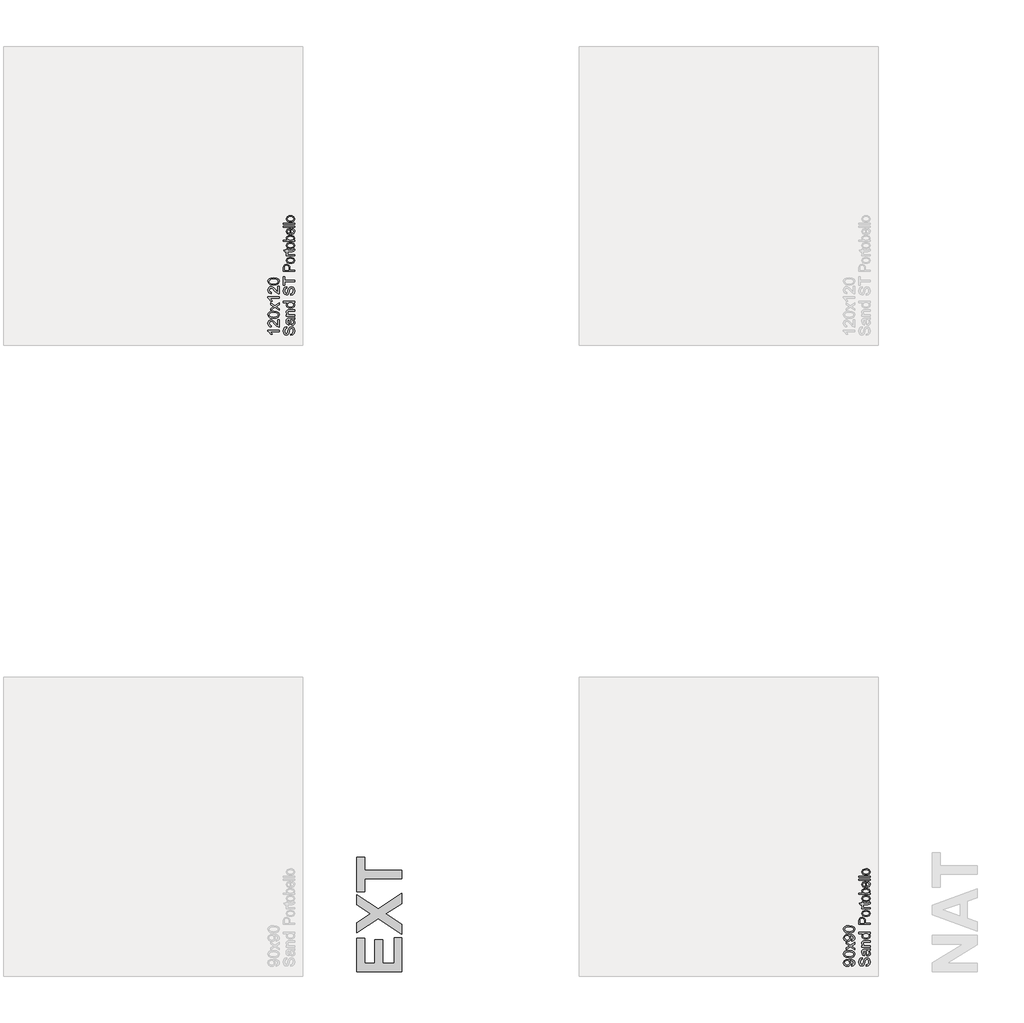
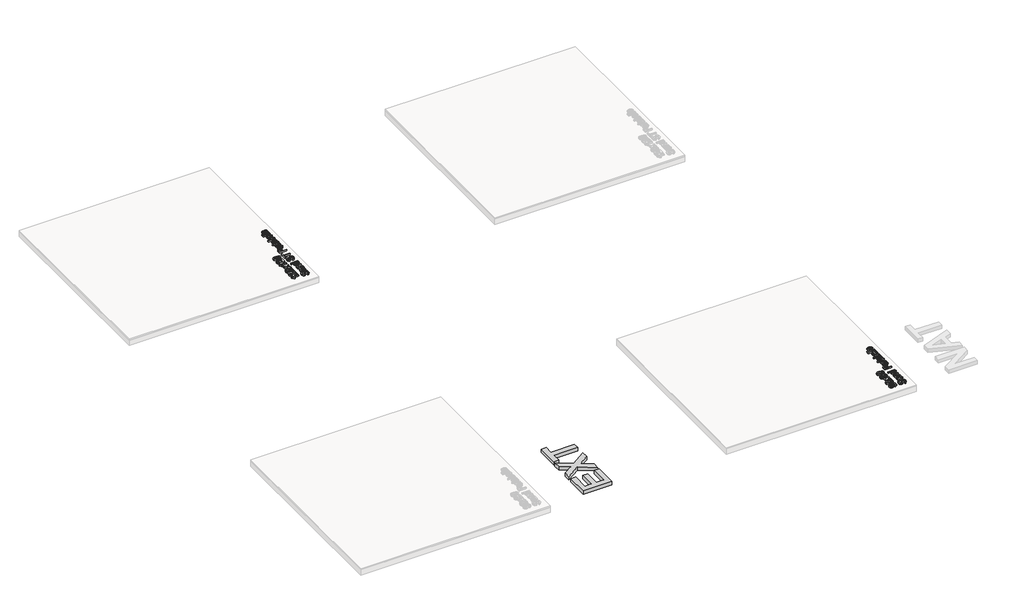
# One storey, part 3 of 19: 7 proxies.
"""IFC4 building model written with IfcOpenShell, lengths in millimetres."""

import ifcopenshell
import ifcopenshell.guid

model = None  # the IFC model being written
_history = None  # IfcOwnerHistory: only IFC2X3 demands one
_inside = {}  # id of a spatial element -> (the spatial element, [elements in it])
_under = {}  # id of a project, library or spatial element -> (it, [spatial elements below it])
_declared = {}  # id of a project -> (the project, [libraries it declares])
_typed = {}  # id of a type object -> (the type object, [elements of that type])
_made_of = {}  # id of a material, layer set ... -> (it, [elements and type objects made of it])


def new_model(schema):
    """Start an empty IFC model of exactly this schema.

    Asked for "IFC4X3", IfcOpenShell would pick the latest addendum, in which some entities
    have other attributes; the version numbers below select the first issue.
    IFC2X3 requires an IfcOwnerHistory on every rooted entity: one is made here for all.
    """
    global model, _history
    if schema == "IFC4X3":
        model = ifcopenshell.file(schema_version=(4, 3, 0, 0))
    else:
        model = ifcopenshell.file(schema=schema)
    _inside.clear()
    _under.clear()
    _declared.clear()
    _typed.clear()
    _made_of.clear()
    _history = None
    if model.schema == "IFC2X3":
        org = make("IfcOrganization", Name="unknown")
        user = make(
            "IfcPersonAndOrganization",
            ThePerson=make("IfcPerson", FamilyName="unknown"),
            TheOrganization=org,
        )
        app = make(
            "IfcApplication",
            ApplicationDeveloper=org,
            Version="unknown",
            ApplicationFullName="unknown",
            ApplicationIdentifier="unknown",
        )
        _history = make(
            "IfcOwnerHistory",
            OwningUser=user,
            OwningApplication=app,
            ChangeAction="ADDED",
            CreationDate=0,
        )
    return model


def make(cls, **values):
    """One entity of the class cls with the attributes given. An attribute that is None is left unset."""
    return model.create_entity(
        cls, **{name: value for name, value in values.items() if value is not None}
    )


def rooted(cls, **values):
    """An entity with a GlobalId (a new one), such as an element, a storey or a relation."""
    return make(cls, GlobalId=ifcopenshell.guid.new(), OwnerHistory=_history, **values)


def si_unit(unit_type, name, prefix=None):
    """IfcSIUnit, for example si_unit("LENGTHUNIT", "METRE", prefix="MILLI")."""
    return make("IfcSIUnit", UnitType=unit_type, Prefix=prefix, Name=name)


def assignment(units):
    """IfcUnitAssignment: the units of a project."""
    return None if units is None else make("IfcUnitAssignment", Units=units)


def point(xyz):
    """IfcCartesianPoint."""
    return None if xyz is None else make("IfcCartesianPoint", Coordinates=xyz)


def direction(xyz):
    """IfcDirection."""
    return None if xyz is None else make("IfcDirection", DirectionRatios=xyz)


def frame(location, z_axis=None, x_axis=None):
    """IfcAxis2Placement3D, a coordinate frame: its origin and axes. An axis left out is left unset."""
    return make(
        "IfcAxis2Placement3D",
        Location=point(location),
        Axis=direction(z_axis),
        RefDirection=direction(x_axis),
    )


def origin():
    """The frame at (0, 0, 0) with its axes left unset."""
    return frame((0.0, 0.0, 0.0))


def origin_with_axes():
    """The frame at (0, 0, 0) with the z axis (0, 0, 1) and the x axis (1, 0, 0) written out."""
    return frame((0.0, 0.0, 0.0), z_axis=(0.0, 0.0, 1.0), x_axis=(1.0, 0.0, 0.0))


def place(relative_to, where):
    """IfcLocalPlacement: puts the frame where relative to a parent placement (None: the world)."""
    return make(
        "IfcLocalPlacement", PlacementRelTo=relative_to, RelativePlacement=where
    )


def context(
    kind, dimensions, precision=None, world=None, true_north=None, identifier=None
):
    """IfcGeometricRepresentationContext, for example the 3D "Model" context."""
    return make(
        "IfcGeometricRepresentationContext",
        ContextIdentifier=identifier,
        ContextType=kind,
        CoordinateSpaceDimension=dimensions,
        Precision=precision,
        WorldCoordinateSystem=world,
        TrueNorth=true_north,
    )


def project(units=None, contexts=None):
    """IfcProject with its units and contexts."""
    return rooted(
        "IfcProject",
        Name="project",
        RepresentationContexts=contexts,
        UnitsInContext=assignment(units),
    )


def spatial(cls, under=None, at=None, **own):
    """A site, building, storey or space (cls), placed at a placement, below another one or the project."""
    s = rooted(cls, ObjectPlacement=at, **own)
    if under is not None:
        _under.setdefault(under.id(), (under, []))[1].append(s)
    return s


def polyline(points):
    """IfcPolyline through the points."""
    return make("IfcPolyline", Points=[point(p) for p in points])


def outline(outer, holes=None, kind="AREA"):
    """IfcArbitraryClosedProfileDef: a profile drawn as a closed curve; with holes, ...WithVoids."""
    if holes is None:
        return make("IfcArbitraryClosedProfileDef", ProfileType=kind, OuterCurve=outer)
    return make(
        "IfcArbitraryProfileDefWithVoids",
        ProfileType=kind,
        OuterCurve=outer,
        InnerCurves=holes,
    )


def extrude(swept, where, along, depth):
    """IfcExtrudedAreaSolid: the profile swept, set in the frame where, extruded along a direction by depth."""
    return make(
        "IfcExtrudedAreaSolid",
        SweptArea=swept,
        Position=where,
        ExtrudedDirection=direction(along),
        Depth=depth,
    )


def shape(context_of_items, identifier, shape_type, items):
    """IfcShapeRepresentation: the items that make up one representation, for example the "Body"."""
    return make(
        "IfcShapeRepresentation",
        ContextOfItems=context_of_items,
        RepresentationIdentifier=identifier,
        RepresentationType=shape_type,
        Items=items,
    )


def made_of(thing, what):
    """Note that an element or type object is made of a material, layer set ...; save() writes the relation."""
    if what is not None:
        _made_of.setdefault(what.id(), (what, []))[1].append(thing)
    return thing


def element(
    cls,
    number,
    at=None,
    inside=None,
    cuts=None,
    type_object=None,
    material=None,
    context=None,
    identifier="Body",
    shape_type=None,
    held_by="IfcProductDefinitionShape",
    body=None,
    shapes=None,
    **own,
):
    """One element of the class cls, such as IfcWall. Its Tag is "e" and its number.

    at: its placement. inside: the storey or other place that contains it. cuts: it is an
    opening in that element (IfcRelVoidsElement). A single representation is given by context,
    identifier, shape_type and body (its items); several are given by shapes. held_by: the class
    of the entity that holds the representations. save() writes the other relations.
    """
    e = rooted(cls, Tag="e%d" % number, ObjectPlacement=at, **own)
    if body is not None:
        shapes = [shape(context, identifier, shape_type, body)]
    if shapes is not None:
        e.Representation = make(held_by, Representations=shapes)
    if inside is not None:
        _inside.setdefault(inside.id(), (inside, []))[1].append(e)
    if cuts is not None:
        rooted(
            "IfcRelVoidsElement", RelatingBuildingElement=cuts, RelatedOpeningElement=e
        )
    if type_object is not None:
        _typed.setdefault(type_object.id(), (type_object, []))[1].append(e)
    return made_of(e, material)


def aggregate(whole, parts):
    """IfcRelAggregates: a whole, such as a stair, and the parts it consists of."""
    return rooted("IfcRelAggregates", RelatingObject=whole, RelatedObjects=parts)


def save(model, path):
    """Write the relations noted so far, then the file.

    IfcRelAggregates (storeys below a building ...), IfcRelContainedInSpatialStructure (elements
    in a storey), IfcRelDefinesByType, IfcRelAssociatesMaterial and IfcRelDeclares: one each for
    every whole, place, type object, material and project.
    """
    for whole, parts in _under.values():
        aggregate(whole, parts)
    for where, things in _inside.values():
        rooted(
            "IfcRelContainedInSpatialStructure",
            RelatedElements=things,
            RelatingStructure=where,
        )
    for kind, things in _typed.values():
        rooted("IfcRelDefinesByType", RelatedObjects=things, RelatingType=kind)
    for what, things in _made_of.values():
        rooted("IfcRelAssociatesMaterial", RelatedObjects=things, RelatingMaterial=what)
    for by, libraries in _declared.values():
        rooted("IfcRelDeclares", RelatingContext=by, RelatedDefinitions=libraries)
    model.write(path)


model = new_model("IFC4")

# Units and contexts
model_context = context("Model", 3, world=origin())
ifc_project = project(units=[si_unit("LENGTHUNIT", "METRE", prefix="MILLI")], contexts=[model_context])

# Site, building, storey
site = spatial("IfcSite", under=ifc_project)
building = spatial("IfcBuilding", under=site)
storey = spatial("IfcBuildingStorey", under=building, Name="PORTOBELLO - SHOWROOM", Elevation=0.0)

# Proxies
placement = place(None, origin())
element("IfcBuildingElementProxy", 1, Name="10mm Arial", ObjectType="10mm Arial", at=placement, inside=storey, context=model_context, shape_type="SweptSolid", body=[
    extrude(outline(polyline([(-6403.2913328, -7006.5341901), (-6403.2913328, -6993.9771514), (-6390.7220313, -6989.9304494), (-6382.7757802, -6980.0466865), (-6379.7468851, -6964.9880502), (-6382.0400162, -6951.8669257), (-6388.3430611, -6943.393377), (-6396.7675588, -6940.6097366), (-6404.6034453, -6942.6944012), (-6410.3056162, -6951.2292635), (-6415.1003449, -6969.5129987), (-6421.2930251, -6989.1946854), (-6430.6372278, -6999.875526), (-6443.1206902, -7003.3949304), (-6457.3331979, -6999.0416602), (-6467.3641136, -6986.3252059), (-6470.7854162, -6967.7103769), (-6467.2046981, -6947.8447492), (-6456.683273, -6934.6009973), (-6440.9624491, -6929.6223277), (-6440.9624491, -6942.1793664), (-6448.4549791, -6944.4847603), (-6453.8628444, -6949.2917517), (-6458.2283774, -6967.2198676), (-6453.9118953, -6985.1970344), (-6443.4885721, -6990.8378917), (-6434.7820316, -6986.8402407), (-6427.7677482, -6966.3369508), (-6421.4647034, -6944.1168783), (-6411.2866348, -6931.9645097), (-6397.0863898, -6928.0526978), (-6382.0645417, -6932.5531209), (-6371.1016582, -6945.5025671), (-6367.1898463, -6964.4975408), (-6371.4082266, -6986.9260798), (-6384.1124181, -7001.1140621), (-6403.2913328, -7006.5341901)])), frame((0.0, 0.0, 18.0), z_axis=(0.0, 0.0, 1.0), x_axis=(1.0, 0.0, 0.0)), (0.0, 0.0, 1.0), 20.0),
    extrude(outline(polyline([(-6378.1772553, -6863.6978741), (-6369.6669185, -6875.8747682), (-6367.1898463, -6889.3269865), (-6368.6797684, -6899.8208204), (-6373.1495347, -6907.5616707), (-6379.9369575, -6912.3349396), (-6388.3798493, -6913.9260292), (-6398.3126631, -6911.5225335), (-6405.5231502, -6905.2072259), (-6409.6434286, -6896.4148462), (-6411.5318895, -6885.5500647), (-6415.8483716, -6863.7714505), (-6418.6442747, -6863.6978741), (-6427.914901, -6867.1559649), (-6431.54467, -6881.0373789), (-6429.1289116, -6893.7415704), (-6420.5572611, -6899.7993606), (-6422.126891, -6912.3563994), (-6434.3896241, -6906.9240086), (-6441.5755858, -6895.9856506), (-6444.1017088, -6879.4186981), (-6441.8698914, -6864.2006462), (-6436.2658223, -6855.6044703), (-6427.7432228, -6851.753972), (-6416.7558138, -6851.1408354), (-6401.1330918, -6851.1408354), (-6379.3176895, -6850.5031733), (-6368.7594762, -6848.0015757), (-6368.7594762, -6860.5586145), (-6378.1772553, -6863.6978741)]), holes=[polyline([(-6403.2913328, -6863.6978741), (-6399.4408346, -6883.9559093), (-6397.4052209, -6894.7593773), (-6394.0942829, -6899.6522078), (-6389.2627661, -6901.3689905), (-6382.4692119, -6897.6288568), (-6379.7468851, -6886.6537106), (-6382.7512547, -6873.9495191), (-6390.0230555, -6865.7580133), (-6399.7351402, -6863.7714505), (-6403.2913328, -6863.6978741)])]), frame((0.0, 0.0, 18.0), z_axis=(0.0, 0.0, 1.0), x_axis=(1.0, 0.0, 0.0)), (0.0, 0.0, 1.0), 20.0),
    extrude(outline(polyline([(-6368.7594762, -6833.8749071), (-6442.532079, -6833.8749071), (-6442.532079, -6821.3178683), (-6432.2313831, -6821.3178683), (-6441.1341274, -6811.7161482), (-6444.1017088, -6798.6072865), (-6441.7104758, -6786.7492235), (-6435.4319565, -6778.6558196), (-6426.1981184, -6774.8911605), (-6414.0580125, -6774.2289729), (-6368.7594762, -6774.2289729), (-6368.7594762, -6786.7860117), (-6412.3657554, -6786.7860117), (-6423.4757916, -6788.2330142), (-6429.3496408, -6793.3465739), (-6431.54467, -6801.9672754), (-6426.6150513, -6815.5911719), (-6419.4720092, -6819.8861942), (-6407.9021205, -6821.3178683), (-6368.7594762, -6821.3178683), (-6368.7594762, -6833.8749071)])), frame((0.0, 0.0, 18.0), z_axis=(0.0, 0.0, 1.0), x_axis=(1.0, 0.0, 0.0)), (0.0, 0.0, 1.0), 20.0),
    extrude(outline(polyline([(-6368.7594762, -6711.4437791), (-6380.6052764, -6711.4437791), (-6370.5437039, -6719.7517808), (-6367.1898463, -6731.2358304), (-6372.0458887, -6746.7849761), (-6385.5962088, -6757.772385), (-6405.5722012, -6761.6719341), (-6425.5604563, -6758.0789533), (-6439.3192429, -6747.3122736), (-6444.1017088, -6731.2848813), (-6440.6804063, -6719.7088612), (-6431.7899247, -6711.4437791), (-6469.2157863, -6711.4437791), (-6469.2157863, -6698.8867403), (-6368.7594762, -6698.8867403), (-6368.7594762, -6711.4437791)]), holes=[polyline([(-6405.6212521, -6749.1148954), (-6394.2628955, -6747.6985497), (-6386.18482, -6743.4495127), (-6381.3563688, -6737.2752265), (-6379.7468851, -6730.0831335), (-6381.2827924, -6722.8941062), (-6385.8905144, -6716.8761699), (-6393.6558902, -6712.8018768), (-6404.6647589, -6711.4437791), (-6416.7006315, -6712.8264022), (-6425.0454215, -6716.9742717), (-6429.9198579, -6723.1454922), (-6431.54467, -6730.5981683), (-6429.9842372, -6737.8638377), (-6425.3029389, -6743.8173947), (-6417.2616516, -6747.7905202), (-6405.6212521, -6749.1148954)])]), frame((0.0, 0.0, 18.0), z_axis=(0.0, 0.0, 1.0), x_axis=(1.0, 0.0, 0.0)), (0.0, 0.0, 1.0), 20.0),
])
element("IfcBuildingElementProxy", 2, Name="10mm Arial", ObjectType="10mm Arial", at=placement, inside=storey, context=model_context, shape_type="SweptSolid", body=[
    extrude(outline(polyline([(-6533.8735537, -7004.9645603), (-6535.4431836, -6992.4075215), (-6523.4624933, -6986.7666643), (-6519.7468851, -6976.0735609), (-6522.1381181, -6965.9077551), (-6528.5270021, -6959.0160991), (-6539.4408346, -6954.9080835), (-6554.0089616, -6953.093199), (-6556.4615082, -6953.1667754), (-6546.9456273, -6963.2099538), (-6543.2913328, -6976.9810032), (-6545.5231502, -6988.4313303), (-6552.2186026, -6997.9625397), (-6562.562218, -7004.3912775), (-6575.7385248, -7006.5341901), (-6589.3501586, -7004.2870443), (-6600.0187365, -6997.5456067), (-6606.9165239, -6987.4196548), (-6609.2157863, -6975.0189659), (-6603.9673365, -6957.1276382), (-6589.0068021, -6944.8158541), (-6560.9006176, -6940.6097366), (-6530.4032002, -6944.8035913), (-6520.4121384, -6950.0183186), (-6513.1250092, -6957.274791), (-6508.6736371, -6966.2603087), (-6507.1898463, -6976.6621721), (-6508.9403515, -6987.398195), (-6514.191867, -6995.9637141), (-6522.613299, -7001.9540593), (-6533.8735537, -7004.9645603)]), holes=[polyline([(-6576.0328304, -6953.1667754), (-6584.5431672, -6954.5218074), (-6591.0914667, -6958.5869034), (-6595.2669274, -6964.8960797), (-6596.6587476, -6972.9833522), (-6595.1596284, -6981.3710617), (-6590.6622711, -6988.0910394), (-6583.7798121, -6992.5056234), (-6575.1253881, -6993.9771514), (-6567.3661437, -6992.5853312), (-6561.207186, -6988.4098705), (-6557.1880752, -6981.8554396), (-6555.8483716, -6973.3267087), (-6561.207186, -6958.8444208), (-6567.5930043, -6954.5861867), (-6576.0328304, -6953.1667754)])]), frame((0.0, 0.0, 18.0), z_axis=(0.0, 0.0, 1.0), x_axis=(1.0, 0.0, 0.0)), (0.0, 0.0, 1.0), 20.0),
    extrude(outline(polyline([(-6558.1782909, -6929.6223277), (-6587.081553, -6925.931245), (-6603.7466074, -6914.9683615), (-6609.2157863, -6896.6601009), (-6605.9784248, -6881.993872), (-6596.6464848, -6871.8648544), (-6581.7840522, -6865.9787425), (-6558.1782909, -6863.6978741), (-6529.3976561, -6867.3521686), (-6512.6958135, -6878.2782639), (-6508.5663381, -6886.5096235), (-6507.1898463, -6896.6601009), (-6509.5810793, -6909.707649), (-6516.7547782, -6919.6159374), (-6533.744795, -6927.1207301), (-6558.1782909, -6929.6223277)]), holes=[polyline([(-6558.2028163, -6917.0652889), (-6538.4506189, -6915.5937609), (-6527.0186859, -6911.179177), (-6521.5648353, -6904.606352), (-6519.7468851, -6896.6601009), (-6521.5709667, -6888.7138498), (-6527.0432114, -6882.1410248), (-6538.4812757, -6877.7264409), (-6558.2028163, -6876.2549129), (-6577.5104897, -6877.67739), (-6589.0313275, -6881.9448211), (-6594.7518926, -6888.5053834), (-6596.6587476, -6896.8072537), (-6594.9787531, -6904.6676657), (-6589.9387698, -6910.9829733), (-6577.7005621, -6915.54471), (-6558.2028163, -6917.0652889)])]), frame((0.0, 0.0, 18.0), z_axis=(0.0, 0.0, 1.0), x_axis=(1.0, 0.0, 0.0)), (0.0, 0.0, 1.0), 20.0),
    extrude(outline(polyline([(-6508.7594762, -6857.4193548), (-6545.8665068, -6830.5884946), (-6582.532079, -6855.8497249), (-6582.532079, -6840.7910886), (-6564.8492177, -6828.6019318), (-6556.5350846, -6822.8874981), (-6563.3531643, -6817.9333539), (-6582.532079, -6804.05194), (-6582.532079, -6788.9442527), (-6545.8419813, -6815.4808073), (-6508.7594762, -6789.9252714), (-6508.7594762, -6805.0084332), (-6531.0776506, -6820.410426), (-6535.1734034, -6823.2063292), (-6508.7594762, -6842.3116675), (-6508.7594762, -6857.4193548)])), frame((0.0, 0.0, 18.0), z_axis=(0.0, 0.0, 1.0), x_axis=(1.0, 0.0, 0.0)), (0.0, 0.0, 1.0), 20.0),
    extrude(outline(polyline([(-6533.8735537, -6780.5074923), (-6535.4431836, -6767.9504535), (-6523.4624933, -6762.3095963), (-6519.7468851, -6751.6164929), (-6522.1381181, -6741.4506871), (-6528.5270021, -6734.5590311), (-6539.4408346, -6730.4510155), (-6554.0089616, -6728.636131), (-6556.4615082, -6728.7097074), (-6546.9456273, -6738.7528858), (-6543.2913328, -6752.5239352), (-6545.5231502, -6763.9742623), (-6552.2186026, -6773.5054717), (-6562.562218, -6779.9342095), (-6575.7385248, -6782.0771221), (-6589.3501586, -6779.8299763), (-6600.0187365, -6773.0885387), (-6606.9165239, -6762.9625868), (-6609.2157863, -6750.5618979), (-6603.9673365, -6732.6705702), (-6589.0068021, -6720.3587861), (-6560.9006176, -6716.1526686), (-6530.4032002, -6720.3465234), (-6520.4121384, -6725.5612506), (-6513.1250092, -6732.817723), (-6508.6736371, -6741.8032407), (-6507.1898463, -6752.2051041), (-6508.9403515, -6762.941127), (-6514.191867, -6771.5066462), (-6522.613299, -6777.4969913), (-6533.8735537, -6780.5074923)]), holes=[polyline([(-6576.0328304, -6728.7097074), (-6584.5431672, -6730.0647394), (-6591.0914667, -6734.1298354), (-6595.2669274, -6740.4390117), (-6596.6587476, -6748.5262842), (-6595.1596284, -6756.9139937), (-6590.6622711, -6763.6339715), (-6583.7798121, -6768.0485554), (-6575.1253881, -6769.5200834), (-6567.3661437, -6768.1282632), (-6561.207186, -6763.9528025), (-6557.1880752, -6757.3983716), (-6555.8483716, -6748.8696407), (-6561.207186, -6734.3873528), (-6567.5930043, -6730.1291187), (-6576.0328304, -6728.7097074)])]), frame((0.0, 0.0, 18.0), z_axis=(0.0, 0.0, 1.0), x_axis=(1.0, 0.0, 0.0)), (0.0, 0.0, 1.0), 20.0),
    extrude(outline(polyline([(-6558.1782909, -6705.1652597), (-6587.081553, -6701.474177), (-6603.7466074, -6690.5112935), (-6609.2157863, -6672.2030329), (-6605.9784248, -6657.536804), (-6596.6464848, -6647.4077864), (-6581.7840522, -6641.5216745), (-6558.1782909, -6639.2408062), (-6529.3976561, -6642.8951006), (-6512.6958135, -6653.8211959), (-6508.5663381, -6662.0525555), (-6507.1898463, -6672.2030329), (-6509.5810793, -6685.250581), (-6516.7547782, -6695.1588694), (-6533.744795, -6702.6636621), (-6558.1782909, -6705.1652597)]), holes=[polyline([(-6558.2028163, -6692.6082209), (-6538.4506189, -6691.1366929), (-6527.0186859, -6686.722109), (-6521.5648353, -6680.149284), (-6519.7468851, -6672.2030329), (-6521.5709667, -6664.2567818), (-6527.0432114, -6657.6839568), (-6538.4812757, -6653.2693729), (-6558.2028163, -6651.7978449), (-6577.5104897, -6653.220322), (-6589.0313275, -6657.4877531), (-6594.7518926, -6664.0483154), (-6596.6587476, -6672.3501857), (-6594.9787531, -6680.2105977), (-6589.9387698, -6686.5259053), (-6577.7005621, -6691.087642), (-6558.2028163, -6692.6082209)])]), frame((0.0, 0.0, 18.0), z_axis=(0.0, 0.0, 1.0), x_axis=(1.0, 0.0, 0.0)), (0.0, 0.0, 1.0), 20.0),
])
element("IfcBuildingElementProxy", 3, Name="10mm Arial", ObjectType="10mm Arial", at=placement, inside=storey, context=model_context, shape_type="SweptSolid", body=[
    extrude(outline(polyline([(-11603.2913328, -1306.5341901), (-11603.2913328, -1293.9771514), (-11590.7220313, -1289.9304494), (-11582.7757802, -1280.0466865), (-11579.7468851, -1264.9880502), (-11582.0400162, -1251.8669257), (-11588.3430611, -1243.393377), (-11596.7675588, -1240.6097366), (-11604.6034453, -1242.6944012), (-11610.3056162, -1251.2292635), (-11615.1003449, -1269.5129987), (-11621.2930251, -1289.1946854), (-11630.6372278, -1299.875526), (-11643.1206902, -1303.3949304), (-11657.3331979, -1299.0416602), (-11667.3641136, -1286.3252059), (-11670.7854162, -1267.7103769), (-11667.2046981, -1247.8447492), (-11656.683273, -1234.6009973), (-11640.9624491, -1229.6223277), (-11640.9624491, -1242.1793664), (-11648.4549791, -1244.4847603), (-11653.8628444, -1249.2917517), (-11658.2283774, -1267.2198676), (-11653.9118953, -1285.1970344), (-11643.4885721, -1290.8378917), (-11634.7820316, -1286.8402407), (-11627.7677482, -1266.3369508), (-11621.4647034, -1244.1168783), (-11611.2866348, -1231.9645097), (-11597.0863898, -1228.0526978), (-11582.0645417, -1232.5531209), (-11571.1016582, -1245.5025671), (-11567.1898463, -1264.4975408), (-11571.4082266, -1286.9260798), (-11584.1124181, -1301.1140621), (-11603.2913328, -1306.5341901)])), frame((0.0, 0.0, 17.0), z_axis=(0.0, 0.0, 1.0), x_axis=(1.0, 0.0, 0.0)), (0.0, 0.0, 1.0), 20.0),
    extrude(outline(polyline([(-11578.1772553, -1163.6978741), (-11569.6669185, -1175.8747682), (-11567.1898463, -1189.3269865), (-11568.6797684, -1199.8208204), (-11573.1495347, -1207.5616707), (-11579.9369575, -1212.3349396), (-11588.3798493, -1213.9260292), (-11598.3126631, -1211.5225335), (-11605.5231502, -1205.2072259), (-11609.6434286, -1196.4148462), (-11611.5318895, -1185.5500647), (-11615.8483716, -1163.7714505), (-11618.6442747, -1163.6978741), (-11627.914901, -1167.1559649), (-11631.54467, -1181.0373789), (-11629.1289116, -1193.7415704), (-11620.5572611, -1199.7993606), (-11622.126891, -1212.3563994), (-11634.3896241, -1206.9240086), (-11641.5755858, -1195.9856506), (-11644.1017088, -1179.4186981), (-11641.8698914, -1164.2006462), (-11636.2658223, -1155.6044703), (-11627.7432228, -1151.753972), (-11616.7558138, -1151.1408354), (-11601.1330918, -1151.1408354), (-11579.3176895, -1150.5031733), (-11568.7594762, -1148.0015757), (-11568.7594762, -1160.5586145), (-11578.1772553, -1163.6978741)]), holes=[polyline([(-11603.2913328, -1163.6978741), (-11599.4408346, -1183.9559093), (-11597.4052209, -1194.7593773), (-11594.0942829, -1199.6522078), (-11589.2627661, -1201.3689905), (-11582.4692119, -1197.6288568), (-11579.7468851, -1186.6537106), (-11582.7512547, -1173.9495191), (-11590.0230555, -1165.7580133), (-11599.7351402, -1163.7714505), (-11603.2913328, -1163.6978741)])]), frame((0.0, 0.0, 17.0), z_axis=(0.0, 0.0, 1.0), x_axis=(1.0, 0.0, 0.0)), (0.0, 0.0, 1.0), 20.0),
    extrude(outline(polyline([(-11568.7594762, -1133.8749071), (-11642.532079, -1133.8749071), (-11642.532079, -1121.3178683), (-11632.2313831, -1121.3178683), (-11641.1341274, -1111.7161482), (-11644.1017088, -1098.6072865), (-11641.7104758, -1086.7492235), (-11635.4319565, -1078.6558196), (-11626.1981184, -1074.8911605), (-11614.0580125, -1074.2289729), (-11568.7594762, -1074.2289729), (-11568.7594762, -1086.7860117), (-11612.3657554, -1086.7860117), (-11623.4757916, -1088.2330142), (-11629.3496408, -1093.3465739), (-11631.54467, -1101.9672754), (-11626.6150513, -1115.5911719), (-11619.4720092, -1119.8861942), (-11607.9021205, -1121.3178683), (-11568.7594762, -1121.3178683), (-11568.7594762, -1133.8749071)])), frame((0.0, 0.0, 17.0), z_axis=(0.0, 0.0, 1.0), x_axis=(1.0, 0.0, 0.0)), (0.0, 0.0, 1.0), 20.0),
    extrude(outline(polyline([(-11568.7594762, -1011.4437791), (-11580.6052764, -1011.4437791), (-11570.5437039, -1019.7517808), (-11567.1898463, -1031.2358304), (-11572.0458887, -1046.7849761), (-11585.5962088, -1057.772385), (-11605.5722012, -1061.6719341), (-11625.5604563, -1058.0789533), (-11639.3192429, -1047.3122736), (-11644.1017088, -1031.2848813), (-11640.6804063, -1019.7088612), (-11631.7899247, -1011.4437791), (-11669.2157863, -1011.4437791), (-11669.2157863, -998.8867403), (-11568.7594762, -998.8867403), (-11568.7594762, -1011.4437791)]), holes=[polyline([(-11605.6212521, -1049.1148954), (-11594.2628955, -1047.6985497), (-11586.18482, -1043.4495127), (-11581.3563688, -1037.2752265), (-11579.7468851, -1030.0831335), (-11581.2827924, -1022.8941062), (-11585.8905144, -1016.8761699), (-11593.6558902, -1012.8018768), (-11604.6647589, -1011.4437791), (-11616.7006315, -1012.8264022), (-11625.0454215, -1016.9742717), (-11629.9198579, -1023.1454922), (-11631.54467, -1030.5981683), (-11629.9842372, -1037.8638377), (-11625.3029389, -1043.8173947), (-11617.2616516, -1047.7905202), (-11605.6212521, -1049.1148954)])]), frame((0.0, 0.0, 17.0), z_axis=(0.0, 0.0, 1.0), x_axis=(1.0, 0.0, 0.0)), (0.0, 0.0, 1.0), 20.0),
    extrude(outline(polyline([(-11603.2913328, -943.9496957), (-11603.2913328, -931.3926569), (-11590.7220313, -927.345955), (-11582.7757802, -917.462192), (-11579.7468851, -902.4035557), (-11582.0400162, -889.2824312), (-11588.3430611, -880.8088826), (-11596.7675588, -878.0252422), (-11604.6034453, -880.1099068), (-11610.3056162, -888.6447691), (-11615.1003449, -906.9285042), (-11621.2930251, -926.610191), (-11630.6372278, -937.2910316), (-11643.1206902, -940.810436), (-11657.3331979, -936.4571657), (-11667.3641136, -923.7407114), (-11670.7854162, -905.1258825), (-11667.2046981, -885.2602547), (-11656.683273, -872.0165029), (-11640.9624491, -867.0378332), (-11640.9624491, -879.594872), (-11648.4549791, -881.9002658), (-11653.8628444, -886.7072572), (-11658.2283774, -904.6353731), (-11653.9118953, -922.61254), (-11643.4885721, -928.2533972), (-11634.7820316, -924.2557462), (-11627.7677482, -903.7524564), (-11621.4647034, -881.5323838), (-11611.2866348, -869.3800153), (-11597.0863898, -865.4682034), (-11582.0645417, -869.9686265), (-11571.1016582, -882.9180727), (-11567.1898463, -901.9130464), (-11571.4082266, -924.3415853), (-11584.1124181, -938.5295676), (-11603.2913328, -943.9496957)])), frame((0.0, 0.0, 17.0), z_axis=(0.0, 0.0, 1.0), x_axis=(1.0, 0.0, 0.0)), (0.0, 0.0, 1.0), 20.0),
    extrude(outline(polyline([(-11568.7594762, -821.5185677), (-11656.6587476, -821.5185677), (-11656.6587476, -854.4807945), (-11669.2157863, -854.4807945), (-11669.2157863, -775.9993022), (-11656.6587476, -775.9993022), (-11656.6587476, -808.9615289), (-11568.7594762, -808.9615289), (-11568.7594762, -821.5185677)])), frame((0.0, 0.0, 17.0), z_axis=(0.0, 0.0, 1.0), x_axis=(1.0, 0.0, 0.0)), (0.0, 0.0, 1.0), 20.0),
])
element("IfcBuildingElementProxy", 4, Name="10mm Arial", ObjectType="10mm Arial", at=placement, inside=storey, context=model_context, shape_type="SweptSolid", body=[
    extrude(outline(polyline([(-11708.7594762, -1259.4452948), (-11708.7594762, -1272.0023335), (-11787.0447648, -1272.0023335), (-11778.5712161, -1283.8971847), (-11772.2313831, -1297.1164111), (-11784.1017088, -1297.1164111), (-11795.8494072, -1278.7100486), (-11809.2157863, -1267.5386987), (-11809.2157863, -1259.4452948), (-11708.7594762, -1259.4452948)])), frame((0.0, 0.0, 17.0), z_axis=(0.0, 0.0, 1.0), x_axis=(1.0, 0.0, 0.0)), (0.0, 0.0, 1.0), 20.0),
    extrude(outline(polyline([(-11721.316515, -1165.267504), (-11708.7594762, -1165.267504), (-11708.7594762, -1231.1919575), (-11717.4169658, -1229.8430569), (-11730.7465568, -1222.2033741), (-11745.3024211, -1206.4702875), (-11766.2226438, -1184.8020379), (-11780.4474143, -1179.3941726), (-11791.9621208, -1184.5077323), (-11796.6587476, -1197.8618488), (-11792.0724854, -1211.7800509), (-11779.3928193, -1217.0652889), (-11780.9624491, -1229.6223277), (-11793.1086863, -1226.5781042), (-11801.9807738, -1219.9960821), (-11807.4070332, -1210.2196181), (-11809.2157863, -1197.5920686), (-11807.2046981, -1184.8725487), (-11801.1714334, -1175.1144787), (-11792.1583245, -1168.9064701), (-11781.2077038, -1166.8371338), (-11769.3005899, -1169.0689513), (-11756.9888058, -1176.4879048), (-11739.7841911, -1194.4773344), (-11727.7053989, -1208.9228341), (-11721.316515, -1214.5882168), (-11721.316515, -1165.267504)])), frame((0.0, 0.0, 17.0), z_axis=(0.0, 0.0, 1.0), x_axis=(1.0, 0.0, 0.0)), (0.0, 0.0, 1.0), 20.0),
    extrude(outline(polyline([(-11758.1782909, -1152.7104652), (-11787.081553, -1149.0193825), (-11803.7466074, -1138.0564991), (-11809.2157863, -1119.7482385), (-11805.9784248, -1105.0820096), (-11796.6464848, -1094.952992), (-11781.7840522, -1089.0668801), (-11758.1782909, -1086.7860117), (-11729.3976561, -1090.4403062), (-11712.6958135, -1101.3664014), (-11708.5663381, -1109.5977611), (-11707.1898463, -1119.7482385), (-11709.5810793, -1132.7957866), (-11716.7547782, -1142.704075), (-11733.744795, -1150.2088677), (-11758.1782909, -1152.7104652)]), holes=[polyline([(-11758.2028163, -1140.1534265), (-11738.4506189, -1138.6818985), (-11727.0186859, -1134.2673145), (-11721.5648353, -1127.6944896), (-11719.7468851, -1119.7482385), (-11721.5709667, -1111.8019874), (-11727.0432114, -1105.2291624), (-11738.4812757, -1100.8145784), (-11758.2028163, -1099.3430505), (-11777.5104897, -1100.7655275), (-11789.0313275, -1105.0329586), (-11794.7518926, -1111.5935209), (-11796.6587476, -1119.8953913), (-11794.9787531, -1127.7558032), (-11789.9387698, -1134.0711108), (-11777.7005621, -1138.6328475), (-11758.2028163, -1140.1534265)])]), frame((0.0, 0.0, 17.0), z_axis=(0.0, 0.0, 1.0), x_axis=(1.0, 0.0, 0.0)), (0.0, 0.0, 1.0), 20.0),
    extrude(outline(polyline([(-11708.7594762, -1080.5074923), (-11745.8665068, -1053.6766321), (-11782.532079, -1078.9378625), (-11782.532079, -1063.8792261), (-11764.8492177, -1051.6900693), (-11756.5350846, -1045.9756357), (-11763.3531643, -1041.0214915), (-11782.532079, -1027.1400775), (-11782.532079, -1012.0323903), (-11745.8419813, -1038.5689449), (-11708.7594762, -1013.0134089), (-11708.7594762, -1028.0965707), (-11731.0776506, -1043.4985636), (-11735.1734034, -1046.2944668), (-11708.7594762, -1065.399805), (-11708.7594762, -1080.5074923)])), frame((0.0, 0.0, 17.0), z_axis=(0.0, 0.0, 1.0), x_axis=(1.0, 0.0, 0.0)), (0.0, 0.0, 1.0), 20.0),
    extrude(outline(polyline([(-11708.7594762, -958.0763643), (-11708.7594762, -970.6334031), (-11787.0447648, -970.6334031), (-11778.5712161, -982.5282543), (-11772.2313831, -995.7474806), (-11784.1017088, -995.7474806), (-11795.8494072, -977.3411181), (-11809.2157863, -966.1697682), (-11809.2157863, -958.0763643), (-11708.7594762, -958.0763643)])), frame((0.0, 0.0, 17.0), z_axis=(0.0, 0.0, 1.0), x_axis=(1.0, 0.0, 0.0)), (0.0, 0.0, 1.0), 20.0),
    extrude(outline(polyline([(-11721.316515, -863.8985735), (-11708.7594762, -863.8985735), (-11708.7594762, -929.8230271), (-11717.4169658, -928.4741264), (-11730.7465568, -920.8344437), (-11745.3024211, -905.101357), (-11766.2226438, -883.4331075), (-11780.4474143, -878.0252422), (-11791.9621208, -883.1388019), (-11796.6587476, -896.4929183), (-11792.0724854, -910.4111205), (-11779.3928193, -915.6963585), (-11780.9624491, -928.2533972), (-11793.1086863, -925.2091737), (-11801.9807738, -918.6271517), (-11807.4070332, -908.8506877), (-11809.2157863, -896.2231382), (-11807.2046981, -883.5036182), (-11801.1714334, -873.7455483), (-11792.1583245, -867.5375396), (-11781.2077038, -865.4682034), (-11769.3005899, -867.7000208), (-11756.9888058, -875.1189744), (-11739.7841911, -893.108404), (-11727.7053989, -907.5539036), (-11721.316515, -913.2192864), (-11721.316515, -863.8985735)])), frame((0.0, 0.0, 17.0), z_axis=(0.0, 0.0, 1.0), x_axis=(1.0, 0.0, 0.0)), (0.0, 0.0, 1.0), 20.0),
    extrude(outline(polyline([(-11758.1782909, -851.3415348), (-11787.081553, -847.6504521), (-11803.7466074, -836.6875686), (-11809.2157863, -818.379308), (-11805.9784248, -803.7130791), (-11796.6464848, -793.5840615), (-11781.7840522, -787.6979496), (-11758.1782909, -785.4170812), (-11729.3976561, -789.0713757), (-11712.6958135, -799.997471), (-11708.5663381, -808.2288306), (-11707.1898463, -818.379308), (-11709.5810793, -831.4268561), (-11716.7547782, -841.3351445), (-11733.744795, -848.8399372), (-11758.1782909, -851.3415348)]), holes=[polyline([(-11758.2028163, -838.784496), (-11738.4506189, -837.312968), (-11727.0186859, -832.8983841), (-11721.5648353, -826.3255591), (-11719.7468851, -818.379308), (-11721.5709667, -810.4330569), (-11727.0432114, -803.8602319), (-11738.4812757, -799.445648), (-11758.2028163, -797.97412), (-11777.5104897, -799.3965971), (-11789.0313275, -803.6640282), (-11794.7518926, -810.2245904), (-11796.6587476, -818.5264608), (-11794.9787531, -826.3868728), (-11789.9387698, -832.7021804), (-11777.7005621, -837.2639171), (-11758.2028163, -838.784496)])]), frame((0.0, 0.0, 17.0), z_axis=(0.0, 0.0, 1.0), x_axis=(1.0, 0.0, 0.0)), (0.0, 0.0, 1.0), 20.0),
])
element("IfcBuildingElementProxy", 5, Name="10mm Arial Narrow", ObjectType="10mm Arial Narrow", at=placement, inside=storey, context=model_context, shape_type="SweptSolid", body=[
    extrude(outline(polyline([(-6368.7594762, -6627.1065049), (-6469.4780799, -6627.1065049), (-6469.4780799, -6595.8096202), (-6467.5997592, -6579.5139187), (-6458.119316, -6568.0409326), (-6441.1002072, -6563.7512541), (-6429.0243817, -6565.5375625), (-6419.3979879, -6570.8964877), (-6413.0967295, -6580.6402765), (-6410.99631, -6595.5811758), (-6410.99631, -6617.3595432), (-6368.7594762, -6617.3595432), (-6368.7594762, -6627.1065049)]), holes=[polyline([(-6422.3677653, -6617.3595432), (-6422.3677653, -6594.3881883), (-6426.8985795, -6578.5239929), (-6440.5671703, -6573.4982158), (-6450.7329467, -6575.9730303), (-6456.5328965, -6581.9506591), (-6458.1066247, -6594.6166327), (-6458.1066247, -6617.3595432), (-6422.3677653, -6617.3595432)])]), frame((0.0, 0.0, 18.0), z_axis=(0.0, 0.0, 1.0), x_axis=(1.0, 0.0, 0.0)), (0.0, 0.0, 1.0), 20.0),
    extrude(outline(polyline([(-6405.3105824, -6555.6287861), (-6421.9013579, -6553.6743172), (-6433.8534428, -6547.8109106), (-6441.0779973, -6538.9523439), (-6443.4861822, -6528.0123947), (-6441.0779973, -6517.1993591), (-6433.8534428, -6508.3154097), (-6422.0917283, -6502.375855), (-6406.0720638, -6500.3960034), (-6388.9101772, -6502.3409537), (-6376.767722, -6508.1758048), (-6369.5431674, -6517.024853), (-6367.1349826, -6528.0123947), (-6369.5495131, -6538.8730229), (-6376.7931047, -6547.7474538), (-6388.7515352, -6553.658453), (-6405.3105824, -6555.6287861)]), holes=[polyline([(-6405.3359651, -6545.8818244), (-6392.7842137, -6544.5777876), (-6383.9129556, -6540.665677), (-6378.6396971, -6534.8244802), (-6376.8819442, -6527.7331849), (-6378.6555613, -6521.0131117), (-6383.9764124, -6515.3210384), (-6392.8635347, -6511.4374834), (-6405.3359651, -6510.142965), (-6417.8496424, -6511.4470019), (-6426.7082092, -6515.3591125), (-6431.9814677, -6521.2003092), (-6433.7392206, -6528.2916046), (-6431.9719492, -6535.0592703), (-6426.6701351, -6540.7418251), (-6417.8020499, -6544.5968246), (-6405.3359651, -6545.8818244)])]), frame((0.0, 0.0, 18.0), z_axis=(0.0, 0.0, 1.0), x_axis=(1.0, 0.0, 0.0)), (0.0, 0.0, 1.0), 20.0),
    extrude(outline(polyline([(-6376.8819442, -6428.9182846), (-6367.1349826, -6427.293791), (-6367.1349826, -6434.6547776), (-6369.2544391, -6442.929542), (-6375.0543889, -6447.2446031), (-6389.7002141, -6448.4122079), (-6432.1147269, -6448.4122079), (-6432.1147269, -6456.5346759), (-6435.3637142, -6456.5346759), (-6430.4902333, -6458.1591695), (-6432.1147269, -6465.7232179), (-6429.7922087, -6471.8023776), (-6423.3069257, -6475.6732413), (-6407.8996191, -6477.6530929), (-6368.7594762, -6477.6530929), (-6368.7594762, -6487.4000545), (-6441.8616886, -6487.4000545), (-6441.8616886, -6477.6530929), (-6432.1654924, -6477.6530929), (-6441.2525035, -6471.4089455), (-6443.4861822, -6465.012502), (-6441.8616886, -6456.5346759), (-6441.8616886, -6448.4122079), (-6458.1066247, -6448.4122079), (-6466.2290927, -6438.6652462), (-6441.8616886, -6438.6652462), (-6441.8616886, -6428.9182846), (-6432.1147269, -6428.9182846), (-6432.1147269, -6438.6652462), (-6387.4665354, -6438.6652462), (-6379.4709809, -6437.802234), (-6376.8819442, -6433.1825803), (-6376.8819442, -6428.9182846)])), frame((0.0, 0.0, 18.0), z_axis=(0.0, 0.0, 1.0), x_axis=(1.0, 0.0, 0.0)), (0.0, 0.0, 1.0), 20.0),
    extrude(outline(polyline([(-6405.3105824, -6422.4203101), (-6421.9013579, -6420.4658413), (-6433.8534428, -6414.6024347), (-6441.0779973, -6405.7438679), (-6443.4861822, -6394.8039188), (-6441.0779973, -6383.9908832), (-6433.8534428, -6375.1069338), (-6422.0917283, -6369.167379), (-6406.0720638, -6367.1875274), (-6388.9101772, -6369.1324778), (-6376.767722, -6374.9673289), (-6369.5431674, -6383.8163771), (-6367.1349826, -6394.8039188), (-6369.5495131, -6405.664547), (-6376.7931047, -6414.5389779), (-6388.7515352, -6420.4499771), (-6405.3105824, -6422.4203101)]), holes=[polyline([(-6405.3359651, -6412.6733485), (-6392.7842137, -6411.3693116), (-6383.9129556, -6407.457201), (-6378.6396971, -6401.6160043), (-6376.8819442, -6394.524709), (-6378.6555613, -6387.8046358), (-6383.9764124, -6382.1125625), (-6392.8635347, -6378.2290074), (-6405.3359651, -6376.9344891), (-6417.8496424, -6378.238526), (-6426.7082092, -6382.1506365), (-6431.9814677, -6387.9918333), (-6433.7392206, -6395.0831286), (-6431.9719492, -6401.8507944), (-6426.6701351, -6407.5333492), (-6417.8020499, -6411.3883487), (-6405.3359651, -6412.6733485)])]), frame((0.0, 0.0, 18.0), z_axis=(0.0, 0.0, 1.0), x_axis=(1.0, 0.0, 0.0)), (0.0, 0.0, 1.0), 20.0),
    extrude(outline(polyline([(-6368.7594762, -6344.4446169), (-6368.7594762, -6354.1915786), (-6469.4780799, -6354.1915786), (-6469.4780799, -6344.4446169), (-6434.0691958, -6344.4446169), (-6441.1509726, -6337.0455562), (-6443.4861822, -6327.8443229), (-6439.2853433, -6314.9625962), (-6426.5559129, -6305.6852147), (-6405.8690021, -6302.2077831), (-6389.4146586, -6304.1400421), (-6377.2119195, -6309.9368191), (-6369.6542168, -6318.3099414), (-6367.1349826, -6327.9712364), (-6369.749402, -6337.3120747), (-6377.5165121, -6344.4446169), (-6368.7594762, -6344.4446169)]), holes=[polyline([(-6405.8690021, -6344.4446169), (-6388.6214488, -6342.3632345), (-6379.8897957, -6336.4744452), (-6376.8819442, -6328.0220018), (-6378.6714255, -6322.0792742), (-6384.0398692, -6316.8409169), (-6405.4628787, -6311.9547447), (-6426.8985795, -6316.6632379), (-6432.0290603, -6321.9079409), (-6433.7392206, -6328.2250635), (-6431.9497393, -6334.2026924), (-6426.5812956, -6339.494988), (-6405.8690021, -6344.4446169)])]), frame((0.0, 0.0, 18.0), z_axis=(0.0, 0.0, 1.0), x_axis=(1.0, 0.0, 0.0)), (0.0, 0.0, 1.0), 20.0),
    extrude(outline(polyline([(-6391.5023867, -6250.2239876), (-6389.8778931, -6240.477026), (-6379.9913265, -6244.1765563), (-6372.8714756, -6249.9955432), (-6368.5691059, -6257.6991965), (-6367.1349826, -6267.0527261), (-6369.5495131, -6278.6462801), (-6376.7931047, -6287.7904023), (-6388.599239, -6293.7299571), (-6404.7013973, -6295.7098087), (-6421.368321, -6293.7204386), (-6433.5488502, -6287.7523282), (-6441.0018492, -6278.7382924), (-6443.4861822, -6267.6111458), (-6441.0875159, -6256.9281966), (-6433.8915168, -6248.1806792), (-6422.1520122, -6242.3458282), (-6406.1228292, -6240.4008778), (-6402.873842, -6240.477026), (-6402.873842, -6285.962847), (-6383.4306841, -6279.9598355), (-6378.5191292, -6274.0297992), (-6376.8819442, -6266.9258125), (-6380.5370549, -6256.7473448), (-6391.5023867, -6250.2239876)]), holes=[polyline([(-6412.6208036, -6285.3028965), (-6412.6208036, -6250.2239876), (-6426.8858881, -6254.4882833), (-6432.0258874, -6260.3136159), (-6433.7392206, -6267.5349976), (-6428.0281102, -6279.7440824), (-6412.6208036, -6285.3028965)])]), frame((0.0, 0.0, 18.0), z_axis=(0.0, 0.0, 1.0), x_axis=(1.0, 0.0, 0.0)), (0.0, 0.0, 1.0), 20.0),
    extrude(outline(polyline([(-6368.7594762, -6227.4810771), (-6469.4780799, -6227.4810771), (-6469.4780799, -6217.7341154), (-6368.7594762, -6217.7341154), (-6368.7594762, -6227.4810771)])), frame((0.0, 0.0, 18.0), z_axis=(0.0, 0.0, 1.0), x_axis=(1.0, 0.0, 0.0)), (0.0, 0.0, 1.0), 20.0),
    extrude(outline(polyline([(-6368.7594762, -6201.4891793), (-6469.4780799, -6201.4891793), (-6469.4780799, -6191.7422177), (-6368.7594762, -6191.7422177), (-6368.7594762, -6201.4891793)])), frame((0.0, 0.0, 18.0), z_axis=(0.0, 0.0, 1.0), x_axis=(1.0, 0.0, 0.0)), (0.0, 0.0, 1.0), 20.0),
    extrude(outline(polyline([(-6405.3105824, -6180.3707624), (-6421.9013579, -6178.4162935), (-6433.8534428, -6172.5528869), (-6441.0779973, -6163.6943202), (-6443.4861822, -6152.7543711), (-6441.0779973, -6141.9413355), (-6433.8534428, -6133.0573861), (-6422.0917283, -6127.1178313), (-6406.0720638, -6125.1379797), (-6388.9101772, -6127.0829301), (-6376.767722, -6132.9177811), (-6369.5431674, -6141.7668293), (-6367.1349826, -6152.7543711), (-6369.5495131, -6163.6149992), (-6376.7931047, -6172.4894301), (-6388.7515352, -6178.4004294), (-6405.3105824, -6180.3707624)]), holes=[polyline([(-6405.3359651, -6170.6238008), (-6392.7842137, -6169.3197639), (-6383.9129556, -6165.4076533), (-6378.6396971, -6159.5664566), (-6376.8819442, -6152.4751612), (-6378.6555613, -6145.7550881), (-6383.9764124, -6140.0630147), (-6392.8635347, -6136.1794597), (-6405.3359651, -6134.8849414), (-6417.8496424, -6136.1889782), (-6426.7082092, -6140.1010888), (-6431.9814677, -6145.9422856), (-6433.7392206, -6153.0335809), (-6431.9719492, -6159.8012467), (-6426.6701351, -6165.4838015), (-6417.8020499, -6169.3388009), (-6405.3359651, -6170.6238008)])]), frame((0.0, 0.0, 18.0), z_axis=(0.0, 0.0, 1.0), x_axis=(1.0, 0.0, 0.0)), (0.0, 0.0, 1.0), 20.0),
])
element("IfcBuildingElementProxy", 6, Name="10mm Arial Narrow", ObjectType="10mm Arial Narrow", at=placement, inside=storey, context=model_context, shape_type="SweptSolid", body=[
    extrude(outline(polyline([(-11568.7594762, -727.1065049), (-11669.4780799, -727.1065049), (-11669.4780799, -695.8096202), (-11667.5997592, -679.5139187), (-11658.119316, -668.0409326), (-11641.1002072, -663.7512541), (-11629.0243817, -665.5375625), (-11619.3979879, -670.8964877), (-11613.0967295, -680.6402765), (-11610.99631, -695.5811758), (-11610.99631, -717.3595432), (-11568.7594762, -717.3595432), (-11568.7594762, -727.1065049)]), holes=[polyline([(-11622.3677653, -717.3595432), (-11622.3677653, -694.3881883), (-11626.8985795, -678.5239929), (-11640.5671703, -673.4982158), (-11650.7329467, -675.9730303), (-11656.5328965, -681.9506591), (-11658.1066247, -694.6166327), (-11658.1066247, -717.3595432), (-11622.3677653, -717.3595432)])]), frame((0.0, 0.0, 17.0), z_axis=(0.0, 0.0, 1.0), x_axis=(1.0, 0.0, 0.0)), (0.0, 0.0, 1.0), 20.0),
    extrude(outline(polyline([(-11605.3105824, -655.6287861), (-11621.9013579, -653.6743172), (-11633.8534428, -647.8109106), (-11641.0779973, -638.9523439), (-11643.4861822, -628.0123947), (-11641.0779973, -617.1993591), (-11633.8534428, -608.3154097), (-11622.0917283, -602.375855), (-11606.0720638, -600.3960034), (-11588.9101772, -602.3409537), (-11576.767722, -608.1758048), (-11569.5431674, -617.024853), (-11567.1349826, -628.0123947), (-11569.5495131, -638.8730229), (-11576.7931047, -647.7474538), (-11588.7515352, -653.658453), (-11605.3105824, -655.6287861)]), holes=[polyline([(-11605.3359651, -645.8818244), (-11592.7842137, -644.5777876), (-11583.9129556, -640.665677), (-11578.6396971, -634.8244802), (-11576.8819442, -627.7331849), (-11578.6555613, -621.0131117), (-11583.9764124, -615.3210384), (-11592.8635347, -611.4374834), (-11605.3359651, -610.142965), (-11617.8496424, -611.4470019), (-11626.7082092, -615.3591125), (-11631.9814677, -621.2003092), (-11633.7392206, -628.2916046), (-11631.9719492, -635.0592703), (-11626.6701351, -640.7418251), (-11617.8020499, -644.5968246), (-11605.3359651, -645.8818244)])]), frame((0.0, 0.0, 17.0), z_axis=(0.0, 0.0, 1.0), x_axis=(1.0, 0.0, 0.0)), (0.0, 0.0, 1.0), 20.0),
    extrude(outline(polyline([(-11576.8819442, -528.9182846), (-11567.1349826, -527.293791), (-11567.1349826, -534.6547776), (-11569.2544391, -542.929542), (-11575.0543889, -547.2446031), (-11589.7002141, -548.4122079), (-11632.1147269, -548.4122079), (-11632.1147269, -556.5346759), (-11635.3637142, -556.5346759), (-11630.4902333, -558.1591695), (-11632.1147269, -565.7232179), (-11629.7922087, -571.8023776), (-11623.3069257, -575.6732413), (-11607.8996191, -577.6530929), (-11568.7594762, -577.6530929), (-11568.7594762, -587.4000545), (-11641.8616886, -587.4000545), (-11641.8616886, -577.6530929), (-11632.1654924, -577.6530929), (-11641.2525035, -571.4089455), (-11643.4861822, -565.012502), (-11641.8616886, -556.5346759), (-11641.8616886, -548.4122079), (-11658.1066247, -548.4122079), (-11666.2290927, -538.6652462), (-11641.8616886, -538.6652462), (-11641.8616886, -528.9182846), (-11632.1147269, -528.9182846), (-11632.1147269, -538.6652462), (-11587.4665354, -538.6652462), (-11579.4709809, -537.802234), (-11576.8819442, -533.1825803), (-11576.8819442, -528.9182846)])), frame((0.0, 0.0, 17.0), z_axis=(0.0, 0.0, 1.0), x_axis=(1.0, 0.0, 0.0)), (0.0, 0.0, 1.0), 20.0),
    extrude(outline(polyline([(-11605.3105824, -522.4203101), (-11621.9013579, -520.4658413), (-11633.8534428, -514.6024347), (-11641.0779973, -505.7438679), (-11643.4861822, -494.8039188), (-11641.0779973, -483.9908832), (-11633.8534428, -475.1069338), (-11622.0917283, -469.167379), (-11606.0720638, -467.1875274), (-11588.9101772, -469.1324778), (-11576.767722, -474.9673289), (-11569.5431674, -483.8163771), (-11567.1349826, -494.8039188), (-11569.5495131, -505.664547), (-11576.7931047, -514.5389779), (-11588.7515352, -520.4499771), (-11605.3105824, -522.4203101)]), holes=[polyline([(-11605.3359651, -512.6733485), (-11592.7842137, -511.3693116), (-11583.9129556, -507.457201), (-11578.6396971, -501.6160043), (-11576.8819442, -494.524709), (-11578.6555613, -487.8046358), (-11583.9764124, -482.1125625), (-11592.8635347, -478.2290074), (-11605.3359651, -476.9344891), (-11617.8496424, -478.238526), (-11626.7082092, -482.1506365), (-11631.9814677, -487.9918333), (-11633.7392206, -495.0831286), (-11631.9719492, -501.8507944), (-11626.6701351, -507.5333492), (-11617.8020499, -511.3883487), (-11605.3359651, -512.6733485)])]), frame((0.0, 0.0, 17.0), z_axis=(0.0, 0.0, 1.0), x_axis=(1.0, 0.0, 0.0)), (0.0, 0.0, 1.0), 20.0),
    extrude(outline(polyline([(-11568.7594762, -444.4446169), (-11568.7594762, -454.1915786), (-11669.4780799, -454.1915786), (-11669.4780799, -444.4446169), (-11634.0691958, -444.4446169), (-11641.1509726, -437.0455562), (-11643.4861822, -427.8443229), (-11639.2853433, -414.9625962), (-11626.5559129, -405.6852147), (-11605.8690021, -402.2077831), (-11589.4146586, -404.1400421), (-11577.2119195, -409.9368191), (-11569.6542168, -418.3099414), (-11567.1349826, -427.9712364), (-11569.749402, -437.3120747), (-11577.5165121, -444.4446169), (-11568.7594762, -444.4446169)]), holes=[polyline([(-11605.8690021, -444.4446169), (-11588.6214488, -442.3632345), (-11579.8897957, -436.4744452), (-11576.8819442, -428.0220018), (-11578.6714255, -422.0792742), (-11584.0398692, -416.8409169), (-11605.4628787, -411.9547447), (-11626.8985795, -416.6632379), (-11632.0290603, -421.9079409), (-11633.7392206, -428.2250635), (-11631.9497393, -434.2026924), (-11626.5812956, -439.494988), (-11605.8690021, -444.4446169)])]), frame((0.0, 0.0, 17.0), z_axis=(0.0, 0.0, 1.0), x_axis=(1.0, 0.0, 0.0)), (0.0, 0.0, 1.0), 20.0),
    extrude(outline(polyline([(-11591.5023867, -350.2239876), (-11589.8778931, -340.477026), (-11579.9913265, -344.1765563), (-11572.8714756, -349.9955432), (-11568.5691059, -357.6991965), (-11567.1349826, -367.0527261), (-11569.5495131, -378.6462801), (-11576.7931047, -387.7904023), (-11588.599239, -393.7299571), (-11604.7013973, -395.7098087), (-11621.368321, -393.7204386), (-11633.5488502, -387.7523282), (-11641.0018492, -378.7382924), (-11643.4861822, -367.6111458), (-11641.0875159, -356.9281966), (-11633.8915168, -348.1806792), (-11622.1520122, -342.3458282), (-11606.1228292, -340.4008778), (-11602.873842, -340.477026), (-11602.873842, -385.962847), (-11583.4306841, -379.9598355), (-11578.5191292, -374.0297992), (-11576.8819442, -366.9258125), (-11580.5370549, -356.7473448), (-11591.5023867, -350.2239876)]), holes=[polyline([(-11612.6208036, -385.3028965), (-11612.6208036, -350.2239876), (-11626.8858881, -354.4882833), (-11632.0258874, -360.3136159), (-11633.7392206, -367.5349976), (-11628.0281102, -379.7440824), (-11612.6208036, -385.3028965)])]), frame((0.0, 0.0, 17.0), z_axis=(0.0, 0.0, 1.0), x_axis=(1.0, 0.0, 0.0)), (0.0, 0.0, 1.0), 20.0),
    extrude(outline(polyline([(-11568.7594762, -327.4810771), (-11669.4780799, -327.4810771), (-11669.4780799, -317.7341154), (-11568.7594762, -317.7341154), (-11568.7594762, -327.4810771)])), frame((0.0, 0.0, 17.0), z_axis=(0.0, 0.0, 1.0), x_axis=(1.0, 0.0, 0.0)), (0.0, 0.0, 1.0), 20.0),
    extrude(outline(polyline([(-11568.7594762, -301.4891793), (-11669.4780799, -301.4891793), (-11669.4780799, -291.7422177), (-11568.7594762, -291.7422177), (-11568.7594762, -301.4891793)])), frame((0.0, 0.0, 17.0), z_axis=(0.0, 0.0, 1.0), x_axis=(1.0, 0.0, 0.0)), (0.0, 0.0, 1.0), 20.0),
    extrude(outline(polyline([(-11605.3105824, -280.3707624), (-11621.9013579, -278.4162935), (-11633.8534428, -272.5528869), (-11641.0779973, -263.6943202), (-11643.4861822, -252.7543711), (-11641.0779973, -241.9413355), (-11633.8534428, -233.0573861), (-11622.0917283, -227.1178313), (-11606.0720638, -225.1379797), (-11588.9101772, -227.0829301), (-11576.767722, -232.9177811), (-11569.5431674, -241.7668293), (-11567.1349826, -252.7543711), (-11569.5495131, -263.6149992), (-11576.7931047, -272.4894301), (-11588.7515352, -278.4004294), (-11605.3105824, -280.3707624)]), holes=[polyline([(-11605.3359651, -270.6238008), (-11592.7842137, -269.3197639), (-11583.9129556, -265.4076533), (-11578.6396971, -259.5664566), (-11576.8819442, -252.4751612), (-11578.6555613, -245.7550881), (-11583.9764124, -240.0630147), (-11592.8635347, -236.1794597), (-11605.3359651, -234.8849414), (-11617.8496424, -236.1889782), (-11626.7082092, -240.1010888), (-11631.9814677, -245.9422856), (-11633.7392206, -253.0335809), (-11631.9719492, -259.8012467), (-11626.6701351, -265.4838015), (-11617.8020499, -269.3388009), (-11605.3359651, -270.6238008)])]), frame((0.0, 0.0, 17.0), z_axis=(0.0, 0.0, 1.0), x_axis=(1.0, 0.0, 0.0)), (0.0, 0.0, 1.0), 20.0),
])
element("IfcBuildingElementProxy", 7, Name="400mm Arial", ObjectType="400mm Arial", at=placement, inside=storey, context=model_context, shape_type="SweptSolid", body=[
    extrude(outline(polyline([(-10598.5490186, -7057.4361951), (-11006.6527786, -7057.4361951), (-11006.6527786, -6752.9778345), (-10935.3965666, -6752.9778345), (-10935.3965666, -6979.7021456), (-10844.7068421, -6979.7021456), (-10844.7068421, -6765.9335094), (-10773.4506301, -6765.9335094), (-10773.4506301, -6979.7021456), (-10669.8052307, -6979.7021456), (-10669.8052307, -6746.499997), (-10598.5490186, -6746.499997), (-10598.5490186, -7057.4361951)])), origin_with_axes(), (0.0, 0.0, 1.0), 50.0),
    extrude(outline(polyline([(-10598.5490186, -6717.3497285), (-10812.6213034, -6578.1774393), (-11006.6527786, -6704.3940535), (-11006.6527786, -6613.5018967), (-10882.4604886, -6532.7313609), (-11006.6527786, -6452.0620412), (-11006.6527786, -6361.0686682), (-10812.5200872, -6487.2852824), (-10598.5490186, -6348.1129932), (-10598.5490186, -6439.0051501), (-10742.5796859, -6532.7313609), (-10598.5490186, -6626.3563554), (-10598.5490186, -6717.3497285)])), origin_with_axes(), (0.0, 0.0, 1.0), 50.0),
    extrude(outline(polyline([(-10598.5490186, -6215.3173253), (-10935.3965666, -6215.3173253), (-10935.3965666, -6331.9183996), (-11006.6527786, -6331.9183996), (-11006.6527786, -6020.9822015), (-10935.3965666, -6020.9822015), (-10935.3965666, -6137.5832758), (-10598.5490186, -6137.5832758), (-10598.5490186, -6215.3173253)])), origin_with_axes(), (0.0, 0.0, 1.0), 50.0),
])

save(model, "model.ifc")
